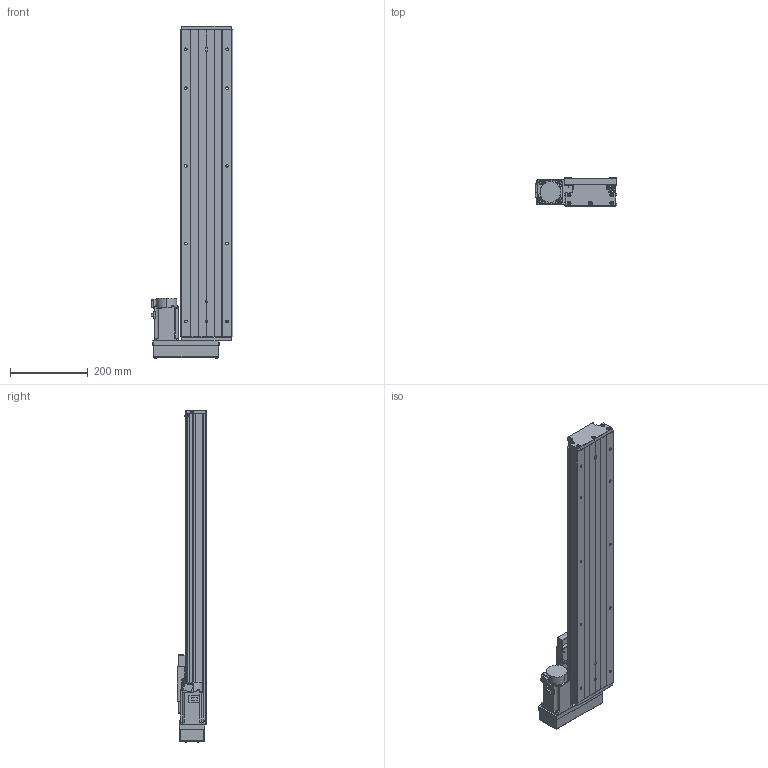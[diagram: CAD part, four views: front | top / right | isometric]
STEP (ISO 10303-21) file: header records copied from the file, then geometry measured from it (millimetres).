
FILE_DESCRIPTION (( 'STEP AP203' ), '1' );
FILE_NAME ('CTH130-600-BL-M40-C4.step', '2023-06-30T02:39:02', ( '微软用户' ), ( '微软中国' ), 'SwSTEP 2.0', 'SolidWorks 2020', '' );
FILE_SCHEMA (( 'CONFIG_CONTROL_DESIGN' ));
Length unit declared in the file: millimetre
Products named in the file (20): HG-KN43J-S100; GBT 70.2-M4¡Á35_M4¡Á35; GB T308.1-2013-6.35; CTHA60-016; GTH14-015-2_CTHA86-015-2; GTH14-004; GBT 70.1-M3℅5; GTH14-033; GTH14-005; GBT77-2000 M3×3; CTH130-600-BL-M40-C4; GB1155-6X6; CTH130-031; GBT70.1 M5℅16; GBT 70.2-M3¡Á5_M3¡Á6; GTH14-001_600; CTHA60-017; す晦芛蹟隊 M3℅5; CTH130-002_GTH14-002; EE_SX911P_R
Assembly tree (60 placements, depth 2):
  CTH130-600-BL-M40-C4
    GTH14-001_600
    CTH130-002_GTH14-002
    GB T308.1-2013-6.35  x2
    GTH14-004
    GTH14-005
    GB1155-6X6  x2
    GBT70.1 M5℅16  x10
    CTHA60-017  x3
    EE_SX911P_R  x3
    CTHA60-016  x2
    GBT 70.1-M3℅5  x6
    GBT77-2000 M3×3  x6
    CTH130-031
    GBT 70.2-M3¡Á5_M3¡Á6  x8
    す晦芛蹟隊 M3℅5  x6
    HG-KN43J-S100
    GBT 70.2-M4¡Á35_M4¡Á35  x4
    GTH14-015-2_CTHA86-015-2
    GTH14-033
Bounding box: 209.3 x 76 x 854.2 mm (x, y, z)
Volume: 4628655.9 mm3; surface area: 792298.4 mm2
Topology: 63 solids, 63 shells, 2435 faces, 5797 edges, 3585 vertices
Faces by surface type: plane 1310, cylinder 646, cone 299, torus 124, sphere 36, bspline 20
Entity records: 43924 total; most frequent: CARTESIAN_POINT 9847, DIRECTION 6402, ORIENTED_EDGE 6300, EDGE_CURVE 3150, AXIS2_PLACEMENT_3D 2184, LINE 2034, VECTOR 2034, VERTEX_POINT 1995
